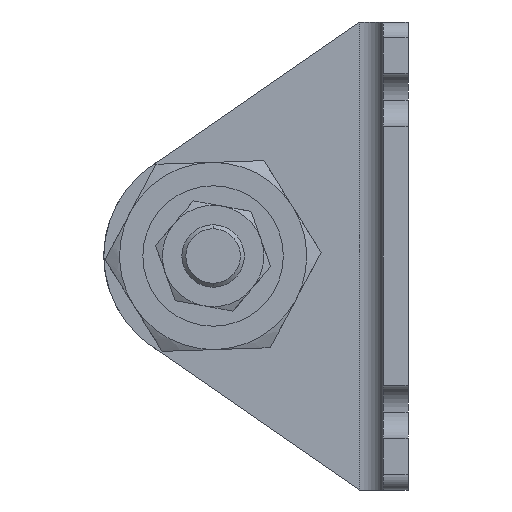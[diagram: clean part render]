
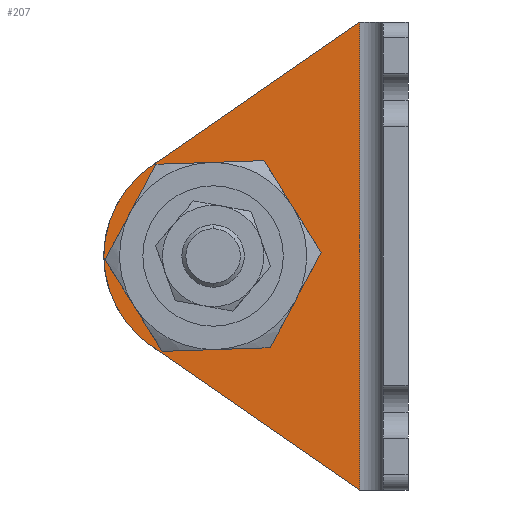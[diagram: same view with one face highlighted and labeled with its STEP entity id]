
A CAD part, left-side view. The second image highlights one B-rep face of the part: STEP entity #207.
In plain terms, the highlighted planar face has unit normal (-1, 0, 0) as drawn and (1, 0, 0) by its records, which use the part's own axes.
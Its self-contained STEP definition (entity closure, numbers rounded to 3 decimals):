
#70 = CARTESIAN_POINT ( 'NONE',  ( 3.2, 25., -30. ) ) ;
#76 = DIRECTION ( 'NONE',  ( 1., 0., 0. ) ) ;
#206 = CIRCLE ( 'NONE', #2754, 9.5 ) ;
#207 = ADVANCED_FACE ( 'NONE', ( #1746, #495 ), #2803, .T. ) ;
#273 = CARTESIAN_POINT ( 'NONE',  ( 3.2, 34.5, -30. ) ) ;
#331 = LINE ( 'NONE', #889, #963 ) ;
#361 = DIRECTION ( 'NONE',  ( 0., 1., 0. ) ) ;
#410 = DIRECTION ( 'NONE',  ( 1., 0., 0. ) ) ;
#419 = DIRECTION ( 'NONE',  ( 0., 0.823, 0.568 ) ) ;
#429 = EDGE_LOOP ( 'NONE', ( #2985, #2743, #2697, #774, #2164 ) ) ;
#495 = FACE_OUTER_BOUND ( 'NONE', #429, .T. ) ;
#536 = VERTEX_POINT ( 'NONE', #3328 ) ;
#725 = EDGE_CURVE ( 'NONE', #805, #536, #789, .T. ) ;
#774 = ORIENTED_EDGE ( 'NONE', *, *, #3116, .F. ) ;
#789 = CIRCLE ( 'NONE', #4004, 14. ) ;
#805 = VERTEX_POINT ( 'NONE', #2484 ) ;
#889 = CARTESIAN_POINT ( 'NONE',  ( 3.2, 32.226, -17.976 ) ) ;
#918 = EDGE_CURVE ( 'NONE', #2453, #805, #3639, .T. ) ;
#963 = VECTOR ( 'NONE', #2753, 1000. ) ;
#1080 = EDGE_LOOP ( 'NONE', ( #1162, #1400 ) ) ;
#1162 = ORIENTED_EDGE ( 'NONE', *, *, #2918, .F. ) ;
#1189 = CARTESIAN_POINT ( 'NONE',  ( 3.2, 3.2, -60. ) ) ;
#1287 = DIRECTION ( 'NONE',  ( 1., 0., 0. ) ) ;
#1313 = CARTESIAN_POINT ( 'NONE',  ( 3.2, 25., -30. ) ) ;
#1323 = CARTESIAN_POINT ( 'NONE',  ( 3.2, 32.956, -18.481 ) ) ;
#1334 = DIRECTION ( 'NONE',  ( 0., 0., -1. ) ) ;
#1400 = ORIENTED_EDGE ( 'NONE', *, *, #1462, .F. ) ;
#1462 = EDGE_CURVE ( 'NONE', #3694, #3121, #2794, .T. ) ;
#1482 = EDGE_CURVE ( 'NONE', #2099, #2453, #2367, .T. ) ;
#1608 = DIRECTION ( 'NONE',  ( 0., 1., 0. ) ) ;
#1635 = DIRECTION ( 'NONE',  ( 0., 1., 0. ) ) ;
#1746 = FACE_BOUND ( 'NONE', #1080, .T. ) ;
#1988 = VECTOR ( 'NONE', #419, 1000. ) ;
#2099 = VERTEX_POINT ( 'NONE', #3031 ) ;
#2119 = CARTESIAN_POINT ( 'NONE',  ( 3.2, 6.2, -60. ) ) ;
#2164 = ORIENTED_EDGE ( 'NONE', *, *, #1482, .T. ) ;
#2237 = AXIS2_PLACEMENT_3D ( 'NONE', #2263, #410, #1608 ) ;
#2263 = CARTESIAN_POINT ( 'NONE',  ( 3.2, 25., -30. ) ) ;
#2367 = LINE ( 'NONE', #3810, #3726 ) ;
#2453 = VERTEX_POINT ( 'NONE', #2119 ) ;
#2484 = CARTESIAN_POINT ( 'NONE',  ( 3.2, 32.956, -41.519 ) ) ;
#2505 = DIRECTION ( 'NONE',  ( 0., 1., 0. ) ) ;
#2596 = DIRECTION ( 'NONE',  ( 1., 0., 0. ) ) ;
#2697 = ORIENTED_EDGE ( 'NONE', *, *, #2790, .T. ) ;
#2743 = ORIENTED_EDGE ( 'NONE', *, *, #725, .T. ) ;
#2753 = DIRECTION ( 'NONE',  ( 0., 0.823, -0.568 ) ) ;
#2754 = AXIS2_PLACEMENT_3D ( 'NONE', #3238, #2596, #3554 ) ;
#2790 = EDGE_CURVE ( 'NONE', #536, #3465, #3610, .T. ) ;
#2794 = CIRCLE ( 'NONE', #2237, 9.5 ) ;
#2803 = PLANE ( 'NONE',  #3381 ) ;
#2918 = EDGE_CURVE ( 'NONE', #3121, #3694, #206, .T. ) ;
#2985 = ORIENTED_EDGE ( 'NONE', *, *, #918, .T. ) ;
#3031 = CARTESIAN_POINT ( 'NONE',  ( 3.2, 6.2, 0. ) ) ;
#3116 = EDGE_CURVE ( 'NONE', #2099, #3465, #331, .T. ) ;
#3121 = VERTEX_POINT ( 'NONE', #273 ) ;
#3238 = CARTESIAN_POINT ( 'NONE',  ( 3.2, 25., -30. ) ) ;
#3328 = CARTESIAN_POINT ( 'NONE',  ( 3.2, 39., -30. ) ) ;
#3381 = AXIS2_PLACEMENT_3D ( 'NONE', #1189, #3454, #2505 ) ;
#3454 = DIRECTION ( 'NONE',  ( 1., 0., 0. ) ) ;
#3465 = VERTEX_POINT ( 'NONE', #1323 ) ;
#3532 = CARTESIAN_POINT ( 'NONE',  ( 3.2, 4.169, -61.403 ) ) ;
#3554 = DIRECTION ( 'NONE',  ( 0., 1., 0. ) ) ;
#3610 = CIRCLE ( 'NONE', #3884, 14. ) ;
#3639 = LINE ( 'NONE', #3532, #1988 ) ;
#3694 = VERTEX_POINT ( 'NONE', #3929 ) ;
#3726 = VECTOR ( 'NONE', #1334, 1000. ) ;
#3810 = CARTESIAN_POINT ( 'NONE',  ( 3.2, 6.2, -60. ) ) ;
#3884 = AXIS2_PLACEMENT_3D ( 'NONE', #1313, #76, #1635 ) ;
#3929 = CARTESIAN_POINT ( 'NONE',  ( 3.2, 15.5, -30. ) ) ;
#4004 = AXIS2_PLACEMENT_3D ( 'NONE', #70, #1287, #361 ) ;
